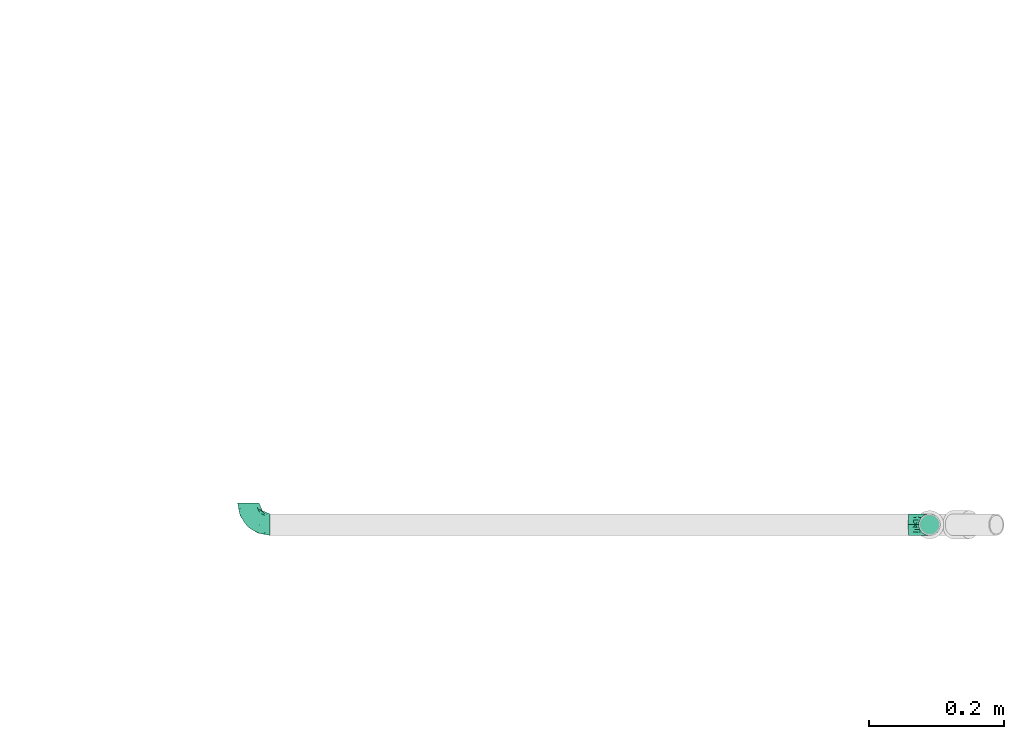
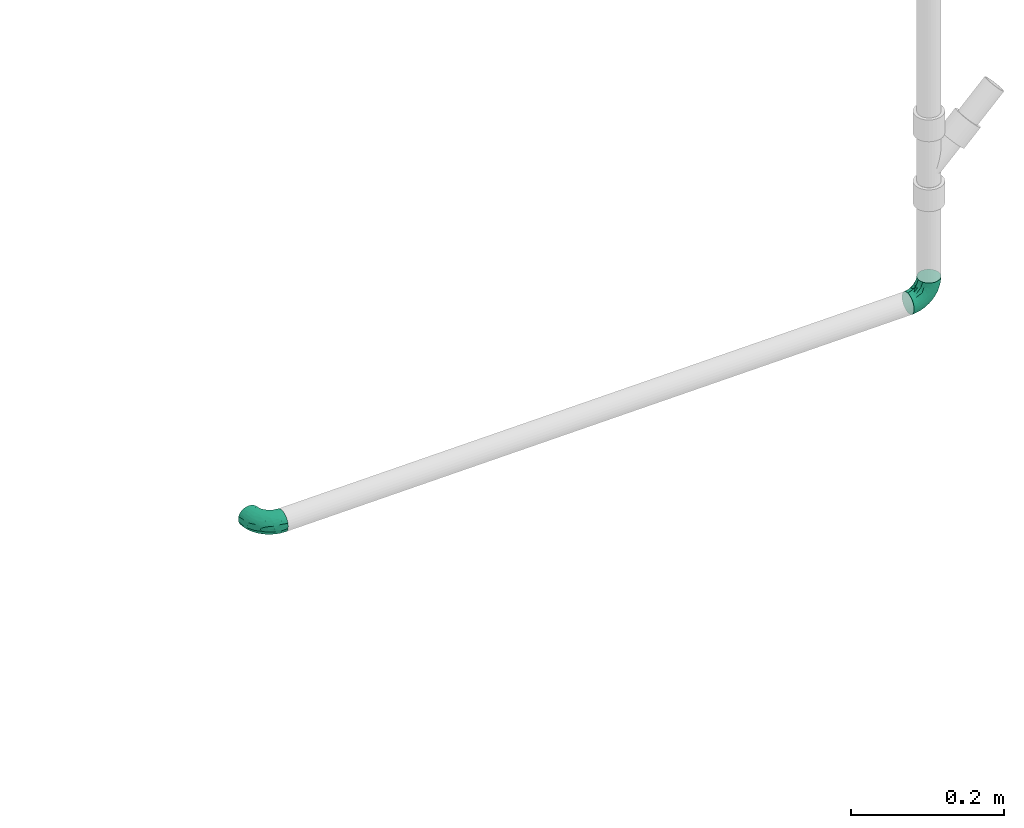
# One storey, part 80 of 83: 2 flow fittings.
"""IFC2X3 building model written with IfcOpenShell, lengths in millimetres."""

from ifc_helpers import new_model, entity, si_unit, converted_unit, derived_unit, direction, frame, origin_with_axes, place, context, subcontext, project, spatial, open_shell, surface_model, source, transform, mapped, type_object, element, save


model = new_model("IFC2X3")

# Units and contexts
model_context = context("Model", 3, precision=0.01, world=frame((0.0, 4.29681676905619e-09, 0.0)), true_north=direction((4.01073788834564e-13, 1.0)))
plan_context = context("Plan", 3, precision=0.01, world=frame((0.0, 4.29681676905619e-09, 0.0)), true_north=direction((4.01073788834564e-13, 1.0)))
body_context = subcontext(model_context, "Body", "Model", "MODEL_VIEW")
ifc_project = project(units=[converted_unit("PLANEANGLEUNIT", "DEGREE", entity("IfcPositiveLengthMeasure", 0.0174532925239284), si_unit("PLANEANGLEUNIT", "RADIAN"), dimensions=[0, 0, 0, 0, 0, 0, 0]), si_unit("AREAUNIT", "SQUARE_METRE"), si_unit("LENGTHUNIT", "METRE", prefix="MILLI"), si_unit("MASSUNIT", "GRAM", prefix="KILO"), si_unit("POWERUNIT", "WATT"), si_unit("PRESSUREUNIT", "PASCAL"), si_unit("FORCEUNIT", "NEWTON", prefix="KILO"), si_unit("ELECTRICVOLTAGEUNIT", "VOLT"), si_unit("ELECTRICCURRENTUNIT", "AMPERE"), si_unit("THERMODYNAMICTEMPERATUREUNIT", "DEGREE_CELSIUS"), si_unit("TIMEUNIT", "SECOND"), si_unit("VOLUMEUNIT", "CUBIC_METRE"), derived_unit("LINEARVELOCITYUNIT", [(si_unit("LENGTHUNIT", "METRE"), 1), (si_unit("TIMEUNIT", "SECOND"), -1)]), derived_unit("VOLUMETRICFLOWRATEUNIT", [(si_unit("VOLUMEUNIT", "CUBIC_METRE"), 1), (si_unit("TIMEUNIT", "SECOND"), -1)]), derived_unit("THERMALTRANSMITTANCEUNIT", [(si_unit("POWERUNIT", "WATT"), 1), (si_unit("THERMODYNAMICTEMPERATUREUNIT", "KELVIN"), -1), (si_unit("AREAUNIT", "SQUARE_METRE"), -1)]), derived_unit("SOUNDPRESSUREUNIT", [(si_unit("PRESSUREUNIT", "PASCAL"), 1)])], contexts=[model_context, plan_context])

# Site, building, storey
site_placement = place(None, frame((0.0, -4.29681676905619e-09, 0.0), z_axis=(0.0, 0.0, 1.0), x_axis=(1.0, 0.0, 0.0)))
site = spatial("IfcSite", under=ifc_project, at=site_placement, Name="ENGM", CompositionType="ELEMENT")
building_placement = place(site_placement, frame((0.0, 4.29681676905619e-09, 0.0), z_axis=(0.0, 0.0, 1.0), x_axis=(1.0, 0.0, 0.0)))
building = spatial("IfcBuilding", under=site, at=building_placement, Name="TI", CompositionType="ELEMENT")
storey_placement = place(building_placement, frame((0.0, 0.0, 204000.0), z_axis=(0.0, 0.0, 1.0), x_axis=(1.0, 0.0, 0.0)))
storey = spatial("IfcBuildingStorey", under=building, at=storey_placement, Name="Nivå D", CompositionType="ELEMENT", Elevation=204000.0)

# Flow fittings
pipe_fitting_type = type_object("IfcPipeFittingType", Name="magi_pipe_elbow_short_001", PredefinedType="BEND")
shared_shape_1 = source(origin_with_axes(), body_context, "Body", "SurfaceModel", [
    surface_model("IfcShellBasedSurfaceModel", [(-31.47111, 4.1411, -15.45481), (-31.47111, 0.0, -16.0), (-31.47111, 11.31371, -11.31371), (-31.47111, 8.0, -13.85641), (-31.47111, 15.45481, -4.1411), (-31.47111, 13.85641, -8.0), (-31.47111, -4.1411, -15.45481), (-31.47111, -16.0, 0.0), (-31.47111, -8.0, -13.85641), (-31.47111, -11.31371, -11.31371), (-31.47111, -13.85641, -8.0), (-31.47111, -15.45481, -4.1411), (-31.47111, 16.0, 0.0), (-31.47111, 15.45481, 4.1411), (-31.47111, 4.1411, 15.45481), (-31.47111, 13.85641, 8.0), (-31.47111, 11.31371, 11.31371), (-31.47111, 8.0, 13.85641), (-31.47111, -4.1411, 15.45481), (-31.47111, -13.85641, 8.0), (-31.47111, -11.31371, 11.31371), (-31.47111, -15.45481, 4.1411), (-31.47111, -8.0, 13.85641), (-31.47111, 0.0, 16.0), (0.52445, 31.46674, -16.0), (-3.61608, 31.53575, -15.45481), (-7.47444, 31.60006, -13.85641), (11.83658, 31.27821, -11.31371), (-10.78769, 31.65528, -11.31371), (-13.33004, 31.69765, -8.0), (-14.92822, 31.72429, -4.1411), (4.66498, 31.39773, -15.45481), (8.52333, 31.33343, -13.85641), (14.37893, 31.23583, -8.0), (16.52222, 31.20011, 0.0), (15.97711, 31.2092, -4.1411), (-15.47333, 31.73337, 0.0), (-14.92822, 31.72429, 4.1411), (15.97711, 31.2092, 4.1411), (-10.78769, 31.65528, 11.31371), (-13.33004, 31.69765, 8.0), (-7.47444, 31.60006, 13.85641), (-3.61608, 31.53575, 15.45481), (11.83658, 31.27821, 11.31371), (14.37893, 31.23583, 8.0), (4.66498, 31.39773, 15.45481), (8.52333, 31.33343, 13.85641), (0.52445, 31.46674, 16.0), (-22.91417, -12.42129, 8.98647), (-20.4656, -9.21923, 11.92882), (-22.37917, -14.21118, 0.0), (-13.56376, -10.16066, 8.08658), (-20.71877, -13.95793, 4.99908), (14.30126, 20.4833, 4.99908), (11.46542, 11.75964, 4.09131), (12.64206, 13.07837, 0.0), (7.51506, 12.33804, 10.9526), (4.14585, 11.93842, 13.31075), (3.98779, 5.06437, 9.95067), (-22.99263, -6.04269, 14.39913), (-24.00521, -2.12097, 15.72977), (-21.94364, 2.45067, 15.97161), (-24.59546, 13.31392, 10.48111), (-22.4843, 16.68394, 7.29134), (-27.53818, 15.01668, 6.61782), (-5.5506, -7.32256, 0.0), (-11.94907, -11.26786, 4.09131), (-13.28722, -12.42236, 0.0), (9.55899, 20.30912, 11.92882), (-16.55073, 17.67252, 11.31303), (-5.5207, 27.24031, 14.98174), (-1.80484, 23.48155, 15.9597), (-27.24367, 9.68647, 13.02706), (10.38528, 13.39256, 8.08658), (-3.90744, 10.36206, 15.70812), (-7.59004, 2.91137, 14.97457), (-1.27847, 8.42574, 14.70496), (-16.046, 23.27717, 7.21807), (-24.25226, 18.95497, 0.0), (-26.14849, 16.36147, 4.04404), (-24.15508, 6.28047, 15.11061), (-5.29608, 15.4946, 15.96515), (-11.53081, 11.72459, 15.59842), (-9.284, 6.86846, 15.92725), (-5.13012, -3.90284, 9.95067), (-2.61584, 2.6598, 13.12417), (-12.00585, -3.94633, 13.31075), (-15.56345, -0.18415, 15.51719), (12.80142, 22.704, 8.98647), (6.42501, 22.88874, 14.39913), (2.52071, 23.96654, 15.72977), (-12.45893, -7.29863, 10.96075), (14.58214, 22.13924, 0.0), (-6.54163, 21.39154, 15.22889), (-9.70448, 24.45486, 13.25403), (-11.696, 17.1159, 14.26345), (-12.78782, 20.97922, 12.23666), (-16.68089, 14.25498, 13.29662), (-21.41962, 18.9659, 3.80757), (-20.25207, 20.59241, 0.0), (-17.08935, 24.04793, 3.70057), (-12.79352, 25.20997, 10.43784), (-17.17947, 6.79139, 15.71202), (-15.35873, 3.89749, 15.99515), (-16.69404, 10.7341, 14.78988), (-8.958, 16.40031, 15.32137), (0.44348, 15.55822, 15.51719), (-21.65623, 10.82149, 13.45524), (-7.07673, -7.10523, 7.5807), (1.74331, -1.77261, 4.4503), (6.30823, 3.59091, 4.78108), (3.63668, 1.77248, 7.1215), (7.22217, 6.95735, 7.5807), (-0.10964, 0.11148, 9.69781), (-0.88743, -2.62423, 7.37796), (7.41404, 5.4278, 0.0), (-17.8627, 26.16289, 0.0), (-3.69554, -6.24752, 4.78108), (2.18602, -2.22276, 0.0), (-23.44821, 2.19589, -15.9597), (6.42501, 22.88874, -14.39913), (4.14585, 11.93842, -13.31075), (0.44348, 15.55822, -15.51719), (-20.4656, -9.21923, -11.92882), (-12.46156, -7.30841, -10.9526), (-13.56376, -10.16066, -8.08658), (-27.14453, 5.97388, -14.98174), (-14.55569, 27.7846, -6.61782), (-16.59982, 24.96226, -3.77828), (-12.00585, -3.94633, -13.31075), (-5.13012, -3.90284, -9.95067), (-24.99327, 13.21185, -10.43784), (-24.28974, 10.11065, -13.25403), (-20.71877, -13.95793, -4.99908), (-11.94907, -11.26786, -4.09131), (-21.27956, 6.8972, -15.22889), (-16.91862, 11.9796, -14.26345), (-12.90221, 24.81392, -10.48111), (-16.30694, 22.75921, -7.29134), (-15.40419, 5.55355, -15.96515), (-11.53081, 11.72459, -15.59842), (-6.71279, 9.39717, -15.92725), (-22.91417, -12.42129, -8.98647), (-17.39426, 16.84293, -11.31303), (-23.00654, 16.43167, -7.21807), (9.55899, 20.30912, -11.92882), (7.50523, 12.33557, -10.96075), (-22.99263, -6.04269, -14.39913), (-5.87706, 24.25638, -15.11061), (-2.08465, 21.98143, -15.97161), (-20.76321, 13.13564, -12.23666), (-24.00521, -2.12097, -15.72977), (-13.97502, 16.91612, -13.29662), (-21.41331, 18.96124, -3.83825), (-25.93375, 16.28511, -4.55454), (11.46542, 11.75964, -4.09131), (14.30126, 20.4833, -4.99908), (-9.23113, 27.40131, -13.02706), (12.80142, 22.704, -8.98647), (2.52071, 23.96654, -15.72977), (-7.07673, -7.10523, -7.58069), (-0.88743, -2.62423, -7.37796), (-3.69554, -6.24752, -4.78108), (10.38528, 13.39256, -8.08658), (-10.2955, 4.07958, -15.70812), (-2.78448, 7.6375, -14.97457), (-8.40327, 1.4187, -14.70496), (-6.50416, 17.29026, -15.71202), (-3.64101, 15.42155, -15.99515), (-10.45441, 16.8706, -14.78988), (-16.24875, 9.23006, -15.32137), (-15.56345, -0.18415, -15.51719), (-10.4591, 21.83355, -13.45524), (-2.61584, 2.6598, -13.12417), (3.98779, 5.06437, -9.95067), (3.63668, 1.77248, -7.1215), (7.22217, 6.95735, -7.58069), (-0.10963, 0.11148, -9.69781), (1.74331, -1.77261, -4.4503), (6.30823, 3.59091, -4.78108)], [open_shell([[[0, 1, 2]], [[3, 0, 2]], [[4, 5, 2]], [[6, 2, 1]], [[4, 2, 7]], [[8, 9, 6]], [[9, 2, 6]], [[10, 11, 9]], [[7, 9, 11]], [[9, 7, 2]], [[7, 12, 4]], [[13, 12, 14]], [[15, 13, 16]], [[14, 17, 16]], [[13, 14, 16]], [[18, 14, 12]], [[19, 20, 21]], [[20, 12, 21]], [[22, 18, 20]], [[20, 18, 12]], [[18, 23, 14]], [[7, 21, 12]], [[24, 25, 26]], [[27, 24, 26]], [[28, 29, 30]], [[28, 30, 26]], [[27, 26, 30]], [[31, 27, 32]], [[31, 24, 27]], [[33, 34, 35]], [[34, 33, 27]], [[30, 34, 27]], [[30, 36, 34]], [[37, 38, 36]], [[39, 37, 40]], [[41, 42, 37]], [[41, 37, 39]], [[43, 37, 42]], [[38, 43, 44]], [[38, 37, 43]], [[43, 45, 46]], [[43, 42, 45]], [[47, 45, 42]], [[36, 38, 34]], [[20, 48, 49]], [[21, 7, 50]], [[51, 48, 52]], [[53, 54, 55]], [[48, 20, 19]], [[21, 52, 19]], [[56, 57, 58]], [[49, 22, 20]], [[49, 59, 22]], [[23, 60, 61]], [[62, 63, 64]], [[65, 66, 67]], [[68, 43, 46]], [[62, 69, 63]], [[42, 70, 71]], [[17, 72, 16]], [[18, 60, 23]], [[56, 73, 68]], [[74, 75, 76]], [[16, 62, 15]], [[40, 37, 77]], [[78, 12, 79]], [[64, 13, 15]], [[23, 61, 14]], [[14, 80, 17]], [[81, 82, 83]], [[84, 85, 86]], [[59, 86, 87]], [[73, 88, 68]], [[89, 46, 45]], [[44, 53, 38]], [[45, 47, 90]], [[54, 53, 73]], [[44, 88, 53]], [[86, 49, 91]], [[88, 44, 43]], [[22, 59, 18]], [[53, 55, 92]], [[92, 38, 53]], [[66, 52, 67]], [[93, 81, 71]], [[94, 95, 93]], [[96, 97, 95]], [[78, 98, 99]], [[41, 39, 94]], [[100, 98, 77]], [[69, 77, 63]], [[42, 41, 70]], [[12, 13, 79]], [[94, 93, 70]], [[98, 100, 99]], [[39, 101, 94]], [[71, 47, 42]], [[96, 94, 101]], [[21, 50, 52]], [[89, 68, 46]], [[68, 89, 57]], [[80, 14, 61]], [[102, 103, 83]], [[104, 80, 102]], [[39, 40, 101]], [[105, 95, 82]], [[93, 105, 81]], [[90, 71, 106]], [[72, 62, 16]], [[62, 107, 97]], [[52, 48, 19]], [[49, 48, 51]], [[68, 88, 43]], [[53, 88, 73]], [[86, 59, 49]], [[67, 52, 50]], [[60, 59, 87]], [[86, 91, 84]], [[86, 85, 75]], [[90, 89, 45]], [[34, 38, 92]], [[106, 76, 57]], [[106, 57, 89]], [[57, 85, 58]], [[108, 84, 91]], [[109, 110, 111]], [[66, 51, 52]], [[112, 73, 56]], [[84, 113, 85]], [[84, 108, 114]], [[113, 84, 114]], [[115, 54, 110]], [[102, 80, 61]], [[72, 80, 107]], [[40, 77, 101]], [[69, 101, 77]], [[13, 64, 79]], [[63, 77, 98]], [[96, 95, 94]], [[37, 36, 100]], [[116, 100, 36]], [[104, 97, 107]], [[102, 83, 82]], [[106, 71, 81]], [[75, 83, 87]], [[81, 83, 74]], [[71, 90, 47]], [[89, 90, 106]], [[59, 60, 18]], [[61, 60, 87]], [[102, 61, 103]], [[104, 102, 82]], [[95, 104, 82]], [[80, 104, 107]], [[95, 97, 104]], [[62, 97, 69]], [[61, 87, 103]], [[87, 83, 103]], [[86, 75, 87]], [[76, 75, 85]], [[57, 76, 85]], [[74, 76, 106]], [[81, 74, 106]], [[75, 74, 83]], [[66, 65, 117]], [[108, 66, 117]], [[112, 54, 73]], [[118, 117, 65]], [[110, 118, 115]], [[80, 72, 17]], [[55, 54, 115]], [[62, 72, 107]], [[94, 70, 41]], [[71, 70, 93]], [[62, 64, 15]], [[79, 63, 98]], [[63, 79, 64]], [[79, 98, 78]], [[49, 51, 91]], [[108, 91, 51]], [[66, 108, 51]], [[114, 108, 117]], [[109, 114, 117]], [[111, 110, 112]], [[117, 118, 109]], [[118, 110, 109]], [[111, 113, 114]], [[85, 113, 58]], [[57, 56, 68]], [[112, 56, 58]], [[58, 113, 111]], [[54, 112, 110]], [[58, 111, 112]], [[109, 111, 114]], [[101, 69, 96]], [[96, 69, 97]], [[37, 100, 77]], [[99, 100, 116]], [[81, 105, 82]], [[93, 95, 105]], [[0, 119, 1]], [[120, 121, 122]], [[123, 124, 125]], [[0, 3, 126]], [[127, 128, 30]], [[124, 129, 130]], [[2, 131, 132]], [[133, 134, 67]], [[135, 132, 136]], [[137, 138, 127]], [[139, 140, 141]], [[135, 126, 132]], [[133, 10, 142]], [[143, 144, 138]], [[133, 67, 50]], [[32, 120, 31]], [[10, 9, 142]], [[121, 145, 146]], [[123, 8, 147]], [[148, 25, 149]], [[150, 132, 131]], [[11, 10, 133]], [[151, 6, 1]], [[142, 123, 125]], [[135, 139, 119]], [[150, 152, 136]], [[78, 153, 154]], [[155, 156, 55]], [[36, 30, 128]], [[99, 153, 78]], [[123, 9, 8]], [[29, 28, 137]], [[26, 157, 28]], [[27, 158, 145]], [[26, 25, 148]], [[24, 159, 149]], [[4, 154, 5]], [[137, 143, 138]], [[115, 155, 55]], [[24, 31, 159]], [[27, 145, 32]], [[0, 126, 119]], [[160, 161, 162]], [[33, 158, 27]], [[24, 149, 25]], [[120, 32, 145]], [[163, 158, 156]], [[128, 153, 99]], [[34, 92, 35]], [[50, 11, 133]], [[147, 8, 6]], [[35, 156, 33]], [[3, 2, 132]], [[164, 165, 166]], [[123, 147, 129]], [[30, 29, 127]], [[35, 92, 156]], [[134, 133, 125]], [[167, 168, 141]], [[169, 148, 167]], [[2, 5, 131]], [[135, 136, 170]], [[135, 170, 139]], [[151, 119, 171]], [[157, 137, 28]], [[137, 172, 152]], [[123, 142, 9]], [[133, 142, 125]], [[156, 158, 33]], [[145, 158, 163]], [[151, 147, 6]], [[7, 11, 50]], [[171, 166, 129]], [[171, 129, 147]], [[129, 173, 130]], [[121, 120, 145]], [[55, 156, 92]], [[159, 120, 122]], [[121, 146, 174]], [[121, 173, 165]], [[174, 173, 121]], [[125, 124, 160]], [[175, 174, 176]], [[65, 134, 162]], [[146, 176, 174]], [[173, 174, 177]], [[155, 163, 156]], [[161, 178, 162]], [[167, 148, 149]], [[157, 148, 172]], [[5, 144, 131]], [[143, 131, 144]], [[153, 144, 154]], [[12, 78, 154]], [[138, 144, 153]], [[99, 116, 128]], [[150, 136, 132]], [[169, 152, 172]], [[167, 141, 140]], [[171, 119, 139]], [[165, 141, 122]], [[139, 141, 164]], [[119, 151, 1]], [[147, 151, 171]], [[120, 159, 31]], [[149, 159, 122]], [[167, 149, 168]], [[169, 167, 140]], [[136, 169, 140]], [[148, 169, 172]], [[136, 152, 169]], [[137, 152, 143]], [[149, 122, 168]], [[122, 141, 168]], [[121, 165, 122]], [[166, 165, 173]], [[129, 166, 173]], [[164, 166, 171]], [[139, 164, 171]], [[165, 164, 141]], [[160, 134, 125]], [[162, 118, 65]], [[155, 115, 179]], [[67, 134, 65]], [[176, 155, 179]], [[148, 157, 26]], [[118, 179, 115]], [[137, 157, 172]], [[132, 126, 3]], [[119, 126, 135]], [[137, 127, 29]], [[128, 127, 138]], [[153, 128, 138]], [[128, 116, 36]], [[129, 124, 123]], [[160, 124, 130]], [[161, 160, 130]], [[134, 160, 162]], [[177, 161, 130]], [[161, 175, 178]], [[179, 118, 178]], [[118, 162, 178]], [[173, 177, 130]], [[175, 177, 174]], [[145, 163, 146]], [[176, 146, 163]], [[155, 176, 163]], [[175, 176, 179]], [[178, 175, 179]], [[175, 161, 177]], [[131, 143, 150]], [[150, 143, 152]], [[5, 154, 144]], [[12, 154, 4]], [[136, 140, 170]], [[139, 170, 140]]])]),
])
flow_fitting_1_placement = place(storey_placement, frame((610240.26511, 689251.68976, 7174.84948), z_axis=(0.0, 1.0, 0.0), x_axis=(0.0, 0.0, -1.0)))
element("IfcFlowFitting", 1, at=flow_fitting_1_placement, inside=storey, type_object=pipe_fitting_type, Name="magi_pipe_elbow_short_001", context=body_context, shape_type="MappedRepresentation", body=[
    mapped(shared_shape_1, transform((0.0, 0.0, 0.0), scale=1.0)),
])
shared_shape_2 = source(origin_with_axes(), body_context, "Body", "SurfaceModel", [
    surface_model("IfcShellBasedSurfaceModel", [(-31.99111, 8.0, -13.85641), (-31.99111, 4.1411, -15.45481), (-31.99111, 0.0, -16.0), (-31.99111, -4.1411, -15.45481), (-31.99111, 15.45481, -4.1411), (-31.99111, 13.85641, -8.0), (-31.99111, 11.31371, -11.31371), (-31.99111, -16.0, 0.0), (-31.99111, 15.45481, 4.1411), (-31.99111, -8.0, -13.85641), (-31.99111, -11.31371, -11.31371), (-31.99111, -13.85641, -8.0), (-31.99111, -15.45481, -4.1411), (-31.99111, -15.45481, 4.1411), (-31.99111, 13.85641, 8.0), (-31.99111, 4.1411, 15.45481), (-31.99111, 8.0, 13.85641), (-31.99111, 11.31371, 11.31371), (-31.99111, -11.31371, 11.31371), (-31.99111, -13.85641, 8.0), (-31.99111, -8.0, 13.85641), (-31.99111, -4.1411, 15.45481), (-31.99111, 0.0, 16.0), (-31.99111, 16.0, 0.0), (-4.13222, 31.99226, -15.45481), (11.32259, 31.98797, -11.31371), (0.00888, 31.99111, -16.0), (-11.30482, 31.99425, -11.31371), (-7.99112, 31.99333, -13.85641), (-13.84752, 31.99496, -8.0), (-15.44593, 31.99541, -4.1411), (15.4637, 31.98682, 4.1411), (4.14999, 31.98996, -15.45481), (8.00888, 31.98889, -13.85641), (15.4637, 31.98682, -4.1411), (13.86529, 31.98727, -8.0), (16.00888, 31.98667, 0.0), (-15.99111, 31.99556, 0.0), (-4.13222, 31.99226, 15.45481), (-15.44593, 31.99541, 4.1411), (-11.30482, 31.99425, 11.31371), (-13.84752, 31.99496, 8.0), (-7.99112, 31.99333, 13.85641), (11.32259, 31.98797, 11.31371), (13.86529, 31.98727, 8.0), (4.14999, 31.98996, 15.45481), (8.00888, 31.98889, 13.85641), (0.00888, 31.99111, 16.0), (-23.46412, -12.43011, 8.98205), (-21.00185, -9.23075, 11.92261), (-22.80825, -14.17375, 0.0), (-14.13404, -10.18893, 8.07564), (-21.25564, -13.96486, 4.99023), (13.97076, 21.25176, 4.99023), (11.29315, 12.52093, 4.10149), (12.35128, 13.62196, 0.0), (7.30661, 12.9489, 10.94354), (9.23658, 20.99928, 11.92261), (3.88775, 12.35468, 13.29279), (-23.50842, -6.05017, 14.39515), (-24.43552, -2.11959, 15.72642), (-22.39744, 2.45255, 15.97271), (-25.08436, 13.31605, 10.49121), (-22.91573, 16.72232, 7.31469), (-28.00167, 15.02432, 6.62969), (-5.84005, -7.14667, 0.0), (-12.52407, -11.28967, 4.10149), (-13.62539, -12.34749, 0.0), (-16.8603, 17.86534, 11.33318), (-5.96487, 27.59295, 14.98677), (-2.18627, 23.92619, 15.96068), (-27.67473, 9.68928, 13.03701), (-1.36882, -2.70351, 7.21206), (-0.2655, 0.32644, 9.55987), (-5.43369, -3.83275, 9.85927), (-4.17184, 10.71047, 15.71032), (-7.94402, 2.93482, 14.94135), (-1.62852, 8.64071, 14.70382), (-16.46532, 23.43257, 7.24198), (-24.78831, 18.98291, 0.0), (-26.63796, 16.37522, 4.03198), (-24.65556, 6.27522, 15.11423), (-5.55626, 15.73036, 15.97119), (-11.84601, 11.8493, 15.61102), (-9.52309, 6.9898, 15.91775), (-2.85394, 2.85473, 13.08208), (-12.35576, -3.88432, 13.29279), (-15.92333, -0.14427, 15.50821), (10.19286, 14.13121, 8.07564), (12.43662, 23.46067, 8.98205), (6.0567, 23.50674, 14.39515), (2.12637, 24.43493, 15.72642), (-12.95093, -7.30302, 10.94354), (14.18008, 22.80432, 0.0), (-6.91331, 21.67556, 15.23761), (-10.10396, 24.77482, 13.26188), (-12.09534, 17.29331, 14.25869), (-13.14007, 21.25199, 12.24361), (-17.08137, 14.35568, 13.29642), (-21.87768, 19.01156, 3.81512), (-20.67898, 20.68472, 0.0), (-17.56181, 24.12434, 3.721), (-13.20142, 25.5072, 10.44521), (-17.57522, 6.85251, 15.71364), (-15.69445, 3.92029, 15.99321), (-17.00452, 10.85437, 14.79891), (-9.31414, 16.60531, 15.32712), (0.14869, 15.92329, 15.50821), (-22.02638, 10.86041, 13.47334), (3.64836, 5.54982, 10.13311), (-7.5854, -7.14178, 7.5115), (0.9549, -2.07974, 4.33643), (4.86755, 2.84719, 5.58357), (4.95636, 1.64292, 2.39903), (8.24497, 6.66158, 3.76902), (-18.97603, 24.79358, 0.0), (8.04729, 8.29862, 6.70411), (-4.30203, -6.36087, 4.64781), (1.9453, -1.94584, 0.0), (7.14829, 5.83806, 0.0), (-25.32169, 2.02309, -15.9479), (-13.83425, 23.41768, -10.67642), (-26.92912, -12.73687, -9.29616), (-24.61148, 6.28223, -15.1161), (-21.83099, 18.97741, -4.03496), (-13.06648, -4.04063, -13.42335), (-13.8873, -0.20095, -15.21792), (-6.42656, -0.27061, -13.11175), (-23.22216, 10.4905, -13.38122), (-25.28908, 13.26235, -10.46873), (9.56536, 23.13664, -12.08037), (5.52739, 20.25291, -14.23017), (6.31512, 27.01223, -14.56188), (-19.28972, 14.66062, -12.06722), (11.87091, 20.0923, -8.66642), (11.88084, 14.82805, -5.25362), (9.23512, 12.19384, -8.2031), (-14.81176, 18.59389, -12.31987), (-11.38896, 19.5607, -13.89445), (-14.78133, 14.78543, -14.04814), (-24.19508, -14.44955, 0.0), (-23.33301, -14.32363, -5.21632), (12.74435, 26.92558, -9.29616), (14.33011, 23.32903, -5.21632), (-6.95325, -7.86726, -5.35428), (-14.83134, -11.87672, -5.25362), (-23.1393, -9.55894, -12.08037), (0.15727, 0.38379, -9.20072), (-5.39578, -5.04951, -8.41757), (-4.86798, -2.25397, -10.92223), (-20.09559, -11.86533, -8.66642), (0.67691, 7.50944, -13.34365), (0.2048, 13.88725, -15.21792), (3.31123, 13.65143, -13.97778), (-23.56459, -2.0173, -15.70749), (-27.01398, -6.30762, -14.56188), (-17.45385, -7.30705, -12.5622), (2.02384, 23.56403, -15.70749), (-27.10986, 16.51499, -2.73872), (1.60779, -1.22924, -4.82431), (-15.6805, 25.38886, -6.97326), (-16.74111, 25.96191, -3.56345), (-12.1964, -9.23173, -8.2031), (-5.64393, 5.6455, -15.10868), (-19.43522, 19.023, -7.848), (-2.01606, 25.32225, -15.9479), (-6.52484, 23.27228, -15.17224), (-10.0356, 25.11282, -13.23582), (-20.25444, -5.52176, -14.23017), (2.77977, 5.57495, -10.94303), (6.53063, 11.93759, -11.19316), (5.28483, 5.62511, -8.32563), (-3.77689, 17.62105, -15.99653), (7.86919, 6.95106, -5.35428), (-8.6467, 9.33293, -15.99093), (-9.46255, 15.16276, -15.52373), (-15.79448, 9.25726, -15.47123), (-25.57203, 15.72661, -6.75024), (14.45627, 24.19107, 0.0), (-17.62001, 3.78179, -15.99653), (-18.33505, 26.34014, 0.0), (-11.93941, -6.52731, -11.19316), (-17.83712, 18.1185, -10.38122)], [open_shell([[[0, 1, 2]], [[0, 2, 3]], [[4, 5, 6]], [[7, 6, 0]], [[7, 8, 6]], [[9, 10, 3]], [[10, 0, 3]], [[11, 12, 10]], [[7, 10, 12]], [[10, 7, 0]], [[8, 4, 6]], [[8, 7, 13]], [[14, 8, 15]], [[14, 15, 16]], [[17, 14, 16]], [[15, 8, 18]], [[19, 18, 13]], [[18, 8, 13]], [[20, 21, 18]], [[18, 21, 15]], [[21, 22, 15]], [[23, 4, 8]], [[24, 25, 26]], [[27, 24, 28]], [[27, 29, 30]], [[25, 24, 27]], [[27, 31, 25]], [[32, 25, 33]], [[32, 26, 25]], [[25, 34, 35]], [[36, 34, 31]], [[34, 25, 31]], [[27, 30, 37]], [[38, 37, 39]], [[40, 39, 41]], [[40, 42, 38]], [[40, 38, 39]], [[37, 38, 43]], [[31, 43, 44]], [[31, 37, 43]], [[43, 45, 46]], [[43, 38, 45]], [[47, 45, 38]], [[37, 31, 27]], [[18, 48, 49]], [[13, 7, 50]], [[51, 48, 52]], [[53, 54, 55]], [[48, 18, 19]], [[13, 52, 19]], [[56, 57, 58]], [[49, 20, 18]], [[49, 59, 20]], [[22, 60, 61]], [[62, 63, 64]], [[65, 66, 67]], [[57, 43, 46]], [[62, 68, 63]], [[38, 69, 70]], [[16, 71, 17]], [[21, 60, 22]], [[72, 73, 74]], [[75, 76, 77]], [[17, 62, 14]], [[41, 39, 78]], [[79, 23, 80]], [[64, 8, 14]], [[22, 61, 15]], [[15, 81, 16]], [[82, 83, 84]], [[74, 85, 86]], [[59, 86, 87]], [[88, 89, 57]], [[90, 46, 45]], [[44, 53, 31]], [[45, 47, 91]], [[54, 53, 88]], [[44, 89, 53]], [[92, 86, 49]], [[89, 44, 43]], [[20, 59, 21]], [[53, 55, 93]], [[93, 31, 53]], [[66, 52, 67]], [[94, 82, 70]], [[95, 96, 94]], [[97, 98, 96]], [[79, 99, 100]], [[42, 40, 95]], [[101, 100, 99]], [[68, 78, 63]], [[38, 42, 69]], [[23, 8, 80]], [[95, 94, 69]], [[78, 101, 99]], [[40, 102, 95]], [[70, 47, 38]], [[97, 95, 102]], [[13, 50, 52]], [[90, 57, 46]], [[57, 90, 58]], [[81, 15, 61]], [[103, 104, 84]], [[105, 81, 103]], [[40, 41, 102]], [[106, 96, 83]], [[94, 106, 82]], [[91, 70, 107]], [[71, 62, 17]], [[62, 108, 98]], [[86, 59, 49]], [[67, 52, 50]], [[60, 59, 87]], [[92, 49, 51]], [[86, 85, 76]], [[91, 90, 45]], [[36, 31, 93]], [[107, 77, 58]], [[107, 58, 90]], [[58, 85, 109]], [[110, 74, 92]], [[72, 74, 110]], [[66, 51, 52]], [[72, 111, 112]], [[113, 114, 112]], [[56, 88, 57]], [[52, 48, 19]], [[49, 48, 51]], [[57, 89, 43]], [[53, 89, 88]], [[103, 81, 61]], [[71, 81, 108]], [[8, 64, 80]], [[63, 78, 99]], [[37, 115, 101]], [[101, 115, 100]], [[41, 78, 102]], [[68, 102, 78]], [[97, 96, 95]], [[105, 98, 108]], [[103, 84, 83]], [[107, 70, 82]], [[76, 84, 87]], [[82, 84, 75]], [[70, 91, 47]], [[90, 91, 107]], [[59, 60, 21]], [[61, 60, 87]], [[73, 85, 74]], [[109, 112, 116]], [[103, 61, 104]], [[105, 103, 83]], [[96, 105, 83]], [[81, 105, 108]], [[96, 98, 105]], [[62, 98, 68]], [[61, 87, 104]], [[87, 84, 104]], [[86, 76, 87]], [[77, 76, 85]], [[58, 77, 85]], [[75, 77, 107]], [[82, 75, 107]], [[76, 75, 84]], [[81, 71, 16]], [[62, 71, 108]], [[95, 69, 42]], [[70, 69, 94]], [[62, 64, 14]], [[80, 63, 99]], [[63, 80, 64]], [[80, 99, 79]], [[66, 65, 117]], [[110, 66, 117]], [[112, 114, 116]], [[118, 117, 65]], [[110, 92, 51]], [[112, 111, 113]], [[119, 55, 54]], [[74, 86, 92]], [[58, 109, 56]], [[116, 56, 109]], [[66, 110, 51]], [[72, 110, 117]], [[111, 72, 117]], [[73, 112, 109]], [[117, 118, 111]], [[113, 111, 118]], [[118, 119, 113]], [[114, 119, 54]], [[119, 114, 113]], [[116, 54, 88]], [[54, 116, 114]], [[116, 88, 56]], [[112, 73, 72]], [[85, 73, 109]], [[78, 39, 101]], [[37, 101, 39]], [[102, 68, 97]], [[97, 68, 98]], [[82, 106, 83]], [[94, 96, 106]], [[1, 120, 2]], [[29, 27, 121]], [[10, 122, 11]], [[0, 123, 1]], [[100, 124, 79]], [[125, 126, 127]], [[128, 6, 129]], [[130, 131, 132]], [[128, 129, 133]], [[134, 135, 136]], [[137, 138, 139]], [[128, 0, 6]], [[67, 140, 141]], [[134, 142, 143]], [[141, 12, 11]], [[144, 65, 145]], [[146, 10, 9]], [[147, 148, 149]], [[145, 141, 150]], [[151, 152, 153]], [[154, 3, 2]], [[9, 155, 146]], [[150, 146, 156]], [[155, 9, 3]], [[143, 135, 134]], [[32, 157, 26]], [[23, 79, 158]], [[148, 159, 144]], [[160, 161, 30]], [[145, 162, 144]], [[163, 152, 151]], [[30, 29, 160]], [[121, 164, 160]], [[33, 25, 130]], [[26, 165, 24]], [[24, 165, 166]], [[142, 25, 35]], [[27, 28, 167]], [[124, 161, 164]], [[157, 32, 132]], [[155, 154, 168]], [[123, 0, 128]], [[169, 170, 171]], [[172, 157, 152]], [[24, 166, 28]], [[132, 32, 33]], [[142, 130, 25]], [[168, 154, 126]], [[136, 135, 173]], [[133, 137, 139]], [[6, 5, 129]], [[170, 131, 130]], [[35, 34, 143]], [[172, 174, 175]], [[176, 123, 128]], [[158, 177, 4]], [[135, 55, 119]], [[167, 28, 166]], [[175, 166, 172]], [[137, 167, 138]], [[122, 141, 11]], [[140, 7, 12]], [[34, 36, 178]], [[170, 130, 134]], [[152, 157, 131]], [[165, 157, 172]], [[153, 170, 151]], [[152, 163, 174]], [[168, 125, 156]], [[122, 146, 150]], [[120, 154, 2]], [[179, 174, 126]], [[179, 126, 154]], [[126, 163, 127]], [[162, 145, 150]], [[140, 12, 141]], [[34, 178, 143]], [[55, 143, 178]], [[177, 129, 5]], [[128, 133, 139]], [[176, 128, 139]], [[120, 123, 179]], [[121, 160, 29]], [[161, 100, 180]], [[166, 175, 138]], [[121, 27, 167]], [[161, 37, 30]], [[79, 124, 158]], [[124, 164, 177]], [[161, 124, 100]], [[136, 171, 170]], [[127, 163, 151]], [[147, 171, 159]], [[148, 144, 162]], [[127, 151, 169]], [[127, 181, 125]], [[129, 177, 164]], [[5, 4, 177]], [[159, 65, 144]], [[67, 141, 145]], [[143, 55, 135]], [[135, 119, 173]], [[123, 120, 1]], [[154, 120, 179]], [[157, 165, 26]], [[166, 165, 172]], [[150, 181, 162]], [[127, 149, 181]], [[181, 148, 162]], [[159, 148, 147]], [[171, 136, 173]], [[170, 134, 136]], [[159, 171, 173]], [[171, 147, 169]], [[169, 147, 149]], [[151, 170, 169]], [[172, 152, 174]], [[176, 139, 175]], [[126, 174, 163]], [[176, 174, 179]], [[174, 176, 175]], [[123, 176, 179]], [[181, 149, 148]], [[169, 149, 127]], [[164, 182, 129]], [[182, 121, 137]], [[182, 137, 133]], [[167, 137, 121]], [[166, 138, 167]], [[175, 139, 138]], [[129, 182, 133]], [[121, 182, 164]], [[161, 160, 164]], [[37, 161, 180]], [[177, 158, 124]], [[23, 158, 4]], [[130, 132, 33]], [[157, 132, 131]], [[143, 142, 35]], [[130, 142, 134]], [[154, 155, 3]], [[146, 155, 168]], [[146, 122, 10]], [[141, 122, 150]], [[152, 131, 153]], [[159, 119, 118]], [[67, 145, 65]], [[170, 153, 131]], [[119, 159, 173]], [[159, 118, 65]], [[156, 125, 181]], [[126, 125, 168]], [[150, 156, 181]], [[168, 156, 146]]])]),
])
flow_fitting_2_placement = place(storey_placement, frame((609230.2665, 689251.68976, 7158.01616999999), z_axis=(-0.0166570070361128, 0.0166620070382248, 0.999722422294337), x_axis=(1.02775424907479e-06, -0.999861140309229, 0.0166643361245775)))
element("IfcFlowFitting", 2, at=flow_fitting_2_placement, inside=storey, type_object=pipe_fitting_type, Name="magi_pipe_elbow_short_001", context=body_context, shape_type="MappedRepresentation", body=[
    mapped(shared_shape_2, transform((0.0, 0.0, 0.0), scale=1.0)),
])

save(model, "model.ifc")
